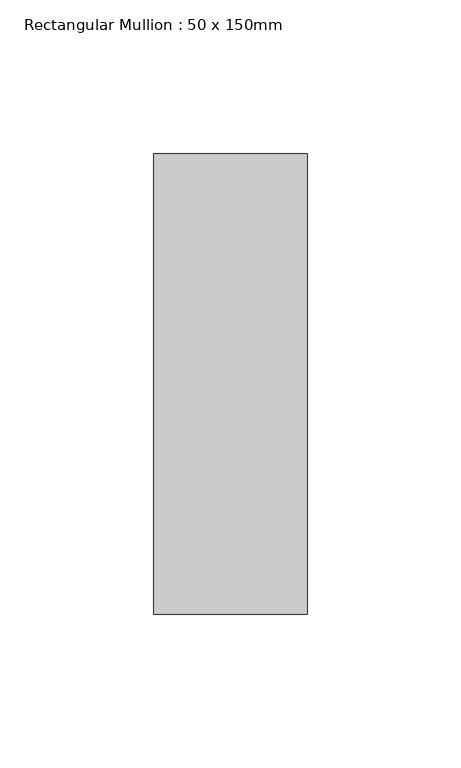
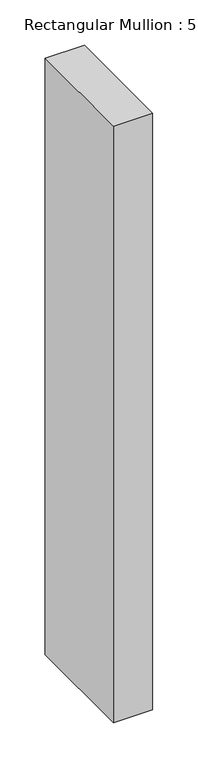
"""IFC4 building model written with IfcOpenShell, lengths in millimetres: member geometry, Rectangular Mullion : 50 x 150mm."""

from ifc_helpers import new_model, si_unit, frame, origin, place, context, project, spatial, polyline, outline, extrude, source, transform, mapped, element, save


def rectangular_mullion_50_x_150mm_519b93b0(model_context):
    return source(origin(), model_context, "Body", "SweptSolid", [
        extrude(outline(polyline([(25.0, 75.0), (25.0, -75.0), (-25.0, -75.0), (-25.0, 75.0), (25.0, 75.0)])), frame((0.0, 0.0, -801.1532588), z_axis=(0.0, 0.0, 1.0), x_axis=(1.0, 0.0, 0.0)), (0.0, 0.0, 1.0), 801.1532588),
    ])


if __name__ == "__main__":
    model = new_model("IFC4")
    model_context = context("Model", 3, world=origin())
    ifc_project = project(units=[si_unit("LENGTHUNIT", "METRE", prefix="MILLI")], contexts=[model_context])
    site = spatial("IfcSite", under=ifc_project)
    building = spatial("IfcBuilding", under=site)
    placement = place(None, origin())
    rectangular_mullion_50_x_150mm_shape = rectangular_mullion_50_x_150mm_519b93b0(model_context)
    element("IfcMember", 1, ObjectType="Rectangular Mullion : 50 x 150mm", at=placement, inside=building, context=model_context, shape_type="MappedRepresentation", body=[
        mapped(rectangular_mullion_50_x_150mm_shape, transform((0.0, 0.0, 0.0), x_axis=(1.0, 0.0, 0.0), y_axis=(0.0, 1.0, 0.0), z_axis=(0.0, 0.0, 1.0))),
    ])
    save(model, "model.ifc")
